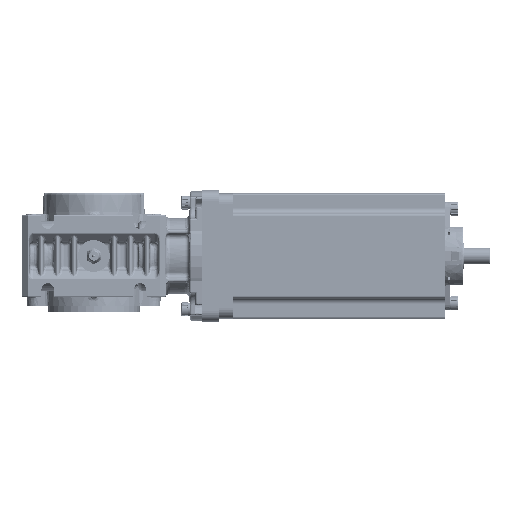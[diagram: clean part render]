
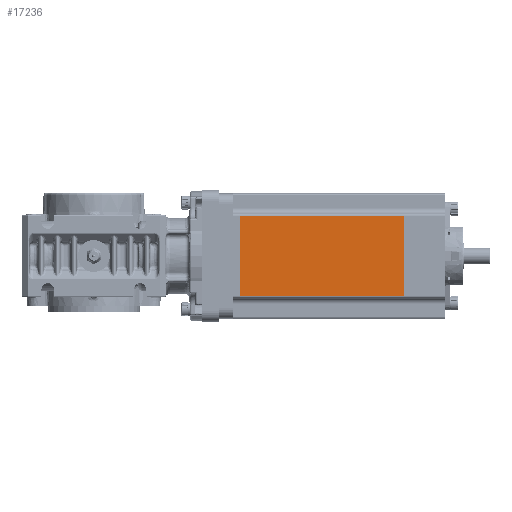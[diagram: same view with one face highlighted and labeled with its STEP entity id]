
A CAD part, front view. The second image highlights one B-rep face of the part: STEP entity #17236.
In plain terms, the highlighted planar face has unit normal (0, -1, 0).
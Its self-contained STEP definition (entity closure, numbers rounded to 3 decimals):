
#11728 = DIRECTION ( 'NONE',  ( 1., 0., 0. ) ) ;
#17109 = CARTESIAN_POINT ( 'NONE',  ( -46.84, 1.5, -12.5 ) ) ;
#17236 = ADVANCED_FACE ( 'NONE', ( #368986 ), #109351, .T. ) ;
#27476 = EDGE_CURVE ( 'NONE', #300123, #331950, #256888, .T. ) ;
#52058 = DIRECTION ( 'NONE',  ( 0., 0., 1. ) ) ;
#77261 = CARTESIAN_POINT ( 'NONE',  ( 33.16, 1.5, -6.5 ) ) ;
#80801 = DIRECTION ( 'NONE',  ( 1., 0., 0. ) ) ;
#99032 = LINE ( 'NONE', #332176, #192277 ) ;
#109351 = PLANE ( 'NONE',  #112667 ) ;
#112667 = AXIS2_PLACEMENT_3D ( 'NONE', #306464, #278002, #80801 ) ;
#116391 = DIRECTION ( 'NONE',  ( -1., 0., 0. ) ) ;
#121563 = EDGE_CURVE ( 'NONE', #300123, #124698, #99032, .T. ) ;
#124698 = VERTEX_POINT ( 'NONE', #342621 ) ;
#146693 = CARTESIAN_POINT ( 'NONE',  ( -49.84, 1.5, -12.5 ) ) ;
#154362 = VECTOR ( 'NONE', #116391, 1000. ) ;
#159726 = CARTESIAN_POINT ( 'NONE',  ( -46.84, 1.5, -51.5 ) ) ;
#160249 = CARTESIAN_POINT ( 'NONE',  ( 33.16, 1.5, -12.5 ) ) ;
#177593 = VECTOR ( 'NONE', #272687, 1000. ) ;
#186786 = EDGE_CURVE ( 'NONE', #320651, #124698, #249799, .T. ) ;
#192277 = VECTOR ( 'NONE', #11728, 1000. ) ;
#206525 = EDGE_LOOP ( 'NONE', ( #296620, #285888, #362244, #369062 ) ) ;
#224885 = VECTOR ( 'NONE', #52058, 1000. ) ;
#240674 = EDGE_CURVE ( 'NONE', #320651, #331950, #321016, .T. ) ;
#249799 = LINE ( 'NONE', #77261, #177593 ) ;
#256888 = LINE ( 'NONE', #285322, #224885 ) ;
#272687 = DIRECTION ( 'NONE',  ( 0., 0., -1. ) ) ;
#278002 = DIRECTION ( 'NONE',  ( 0., -1., 0. ) ) ;
#285322 = CARTESIAN_POINT ( 'NONE',  ( -46.84, 1.5, -6.5 ) ) ;
#285888 = ORIENTED_EDGE ( 'NONE', *, *, #240674, .T. ) ;
#296620 = ORIENTED_EDGE ( 'NONE', *, *, #186786, .F. ) ;
#300123 = VERTEX_POINT ( 'NONE', #159726 ) ;
#306464 = CARTESIAN_POINT ( 'NONE',  ( 53.16, 1.5, -6.5 ) ) ;
#320651 = VERTEX_POINT ( 'NONE', #160249 ) ;
#321016 = LINE ( 'NONE', #146693, #154362 ) ;
#331950 = VERTEX_POINT ( 'NONE', #17109 ) ;
#332176 = CARTESIAN_POINT ( 'NONE',  ( 53.16, 1.5, -51.5 ) ) ;
#342621 = CARTESIAN_POINT ( 'NONE',  ( 33.16, 1.5, -51.5 ) ) ;
#362244 = ORIENTED_EDGE ( 'NONE', *, *, #27476, .F. ) ;
#368986 = FACE_OUTER_BOUND ( 'NONE', #206525, .T. ) ;
#369062 = ORIENTED_EDGE ( 'NONE', *, *, #121563, .T. ) ;
